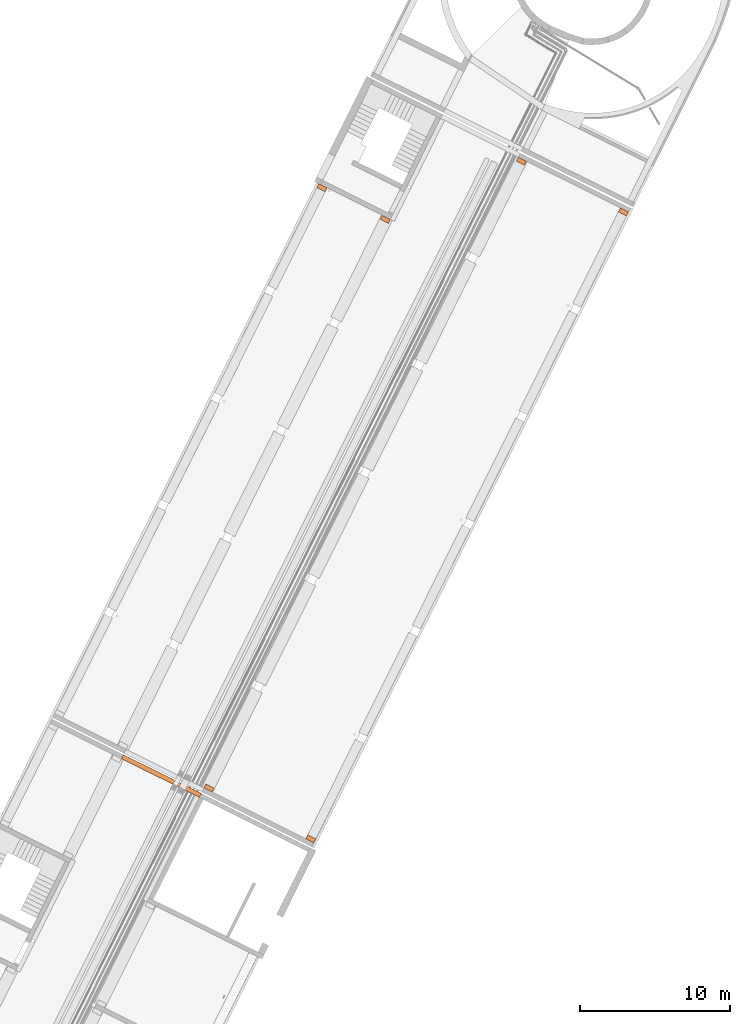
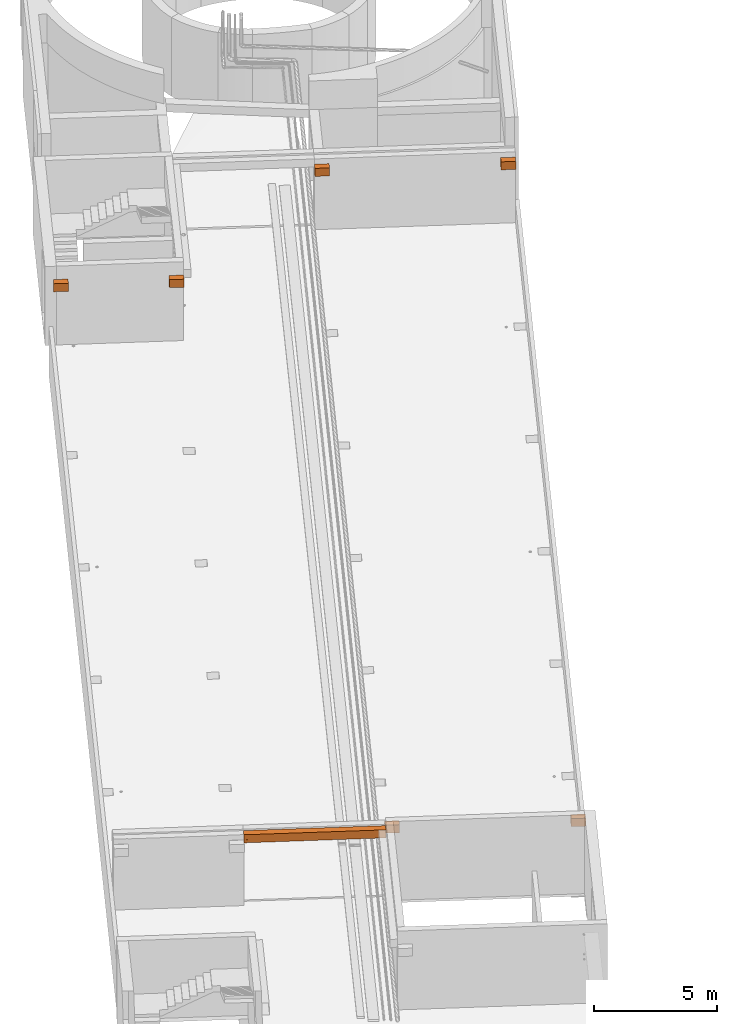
# One storey, part 47 of 47: 7 proxies.
"""IFC2X3 building model written with IfcOpenShell, lengths in metres."""

from ifc_helpers import new_model, entity, si_unit, converted_unit, derived_unit, direction, frame, frame_2d, origin, place, context, subcontext, project, spatial, rectangle, extrude, faceted_brep, source, transform, mapped, material, element, save


model = new_model("IFC2X3")

# Units and contexts
model_context = context("Model", 3, precision=1e-05, world=origin(), true_north=direction((0.894925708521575, 0.446215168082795)))
context_of_model = context(None, 3, precision=1e-05, world=origin(), true_north=direction((0.894925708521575, 0.446215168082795)))
body_context = subcontext(model_context, "Body", "Model", "MODEL_VIEW")
ifc_project = project(units=[si_unit("LENGTHUNIT", "METRE"), si_unit("AREAUNIT", "SQUARE_METRE"), si_unit("VOLUMEUNIT", "CUBIC_METRE"), converted_unit("PLANEANGLEUNIT", "DEGREE", entity("IfcRatioMeasure", 0.0174532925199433), si_unit("PLANEANGLEUNIT", "RADIAN"), dimensions=[0, 0, 0, 0, 0, 0, 0]), si_unit("MASSUNIT", "GRAM", prefix="KILO"), si_unit("TIMEUNIT", "SECOND"), si_unit("FREQUENCYUNIT", "HERTZ"), si_unit("THERMODYNAMICTEMPERATUREUNIT", "DEGREE_CELSIUS"), derived_unit("THERMALTRANSMITTANCEUNIT", [(si_unit("MASSUNIT", "GRAM", prefix="KILO"), 1), (si_unit("THERMODYNAMICTEMPERATUREUNIT", "KELVIN"), -1), (si_unit("TIMEUNIT", "SECOND"), -3)]), derived_unit("VOLUMETRICFLOWRATEUNIT", [(si_unit("LENGTHUNIT", "METRE"), 3), (si_unit("TIMEUNIT", "SECOND"), -1)]), si_unit("ELECTRICCURRENTUNIT", "AMPERE"), si_unit("ELECTRICVOLTAGEUNIT", "VOLT"), si_unit("POWERUNIT", "WATT"), si_unit("FORCEUNIT", "NEWTON", prefix="KILO"), si_unit("ILLUMINANCEUNIT", "LUX"), si_unit("LUMINOUSFLUXUNIT", "LUMEN"), si_unit("LUMINOUSINTENSITYUNIT", "CANDELA"), si_unit("PRESSUREUNIT", "PASCAL")], contexts=[model_context, context_of_model])

# Site, building, storey
site_placement = place(None, frame((218.228324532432, 584.720189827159, 0.0), z_axis=(0.0, 0.0, 1.0), x_axis=(0.446215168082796, 0.894925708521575, 0.0)))
site = spatial("IfcSite", under=ifc_project, at=site_placement, Name="Default", CompositionType="ELEMENT")
building_placement = place(site_placement, origin())
building = spatial("IfcBuilding", under=site, at=building_placement, CompositionType="ELEMENT")
storey_placement = place(building_placement, frame((0.0, 0.0, 4.69)))
storey = spatial("IfcBuildingStorey", under=building, at=storey_placement, Name="1 - Piano Primo", CompositionType="ELEMENT", Elevation=4.69)

# Proxies
ifc_material = material(Name="Calcestruzzo, gettato in opera")
shared_shape_1 = source(origin(), body_context, "Body", "SweptSolid", [
    extrude(rectangle(XDim=0.300000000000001, YDim=0.6, at=frame_2d((0.0, 5.27355936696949e-16), x_axis=(1.0, 0.0))), frame((0.150000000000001, 0.300000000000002, 0.0), z_axis=(0.0, 0.0, 1.0), x_axis=(-1.0, 0.0, 0.0)), (0.0, 0.0, 1.0), 0.4),
])
proxy_1_placement = place(storey_placement, frame((50.7059369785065, 5.51892100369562, 2.86)))
element("IfcBuildingElementProxy", 1, at=proxy_1_placement, inside=storey, material=ifc_material, Name="Mensola C.A.34:Mensola C.A.", ObjectType="Mensola C.A.", CompositionType="ELEMENT", context=body_context, shape_type="MappedRepresentation", body=[
    mapped(shared_shape_1, transform((0.0, 0.0, 0.0), scale=1.0)),
])
shared_shape_2 = source(origin(), body_context, "Body", "SweptSolid", [
    extrude(rectangle(XDim=0.300000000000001, YDim=0.6, at=frame_2d((0.0, 5.27355936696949e-16), x_axis=(1.0, 0.0))), frame((0.150000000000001, 0.300000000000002, 0.0), z_axis=(0.0, 0.0, 1.0), x_axis=(-1.0, 0.0, 0.0)), (0.0, 0.0, 1.0), 0.4),
])
proxy_2_placement = place(storey_placement, frame((11.4942149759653, -5.60107899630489, 2.86)))
element("IfcBuildingElementProxy", 2, at=proxy_2_placement, inside=storey, material=ifc_material, Name="Mensola C.A.35:Mensola C.A.", ObjectType="Mensola C.A.", CompositionType="ELEMENT", context=body_context, shape_type="MappedRepresentation", body=[
    mapped(shared_shape_2, transform((0.0, 0.0, 0.0), scale=1.0)),
])
shared_shape_3 = source(origin(), body_context, "Body", "SweptSolid", [
    extrude(rectangle(XDim=0.300000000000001, YDim=0.6, at=frame_2d((0.0, 5.27355936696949e-16), x_axis=(1.0, 0.0))), frame((0.150000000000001, 0.300000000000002, 0.0), z_axis=(0.0, 0.0, 1.0), x_axis=(-1.0, 0.0, 0.0)), (0.0, 0.0, 1.0), 0.4),
])
proxy_3_placement = place(storey_placement, frame((11.4942149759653, -13.2010789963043, 2.86)))
element("IfcBuildingElementProxy", 3, at=proxy_3_placement, inside=storey, material=ifc_material, Name="Mensola C.A.36:Mensola C.A.", ObjectType="Mensola C.A.", CompositionType="ELEMENT", context=body_context, shape_type="MappedRepresentation", body=[
    mapped(shared_shape_3, transform((0.0, 0.0, 0.0), scale=1.0)),
])
shared_shape_4 = source(origin(), body_context, "Body", "SweptSolid", [
    extrude(rectangle(XDim=0.300000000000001, YDim=0.6, at=frame_2d((0.0, 5.27355936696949e-16), x_axis=(1.0, 0.0))), frame((0.150000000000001, 0.300000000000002, 0.0), z_axis=(0.0, 0.0, 1.0), x_axis=(-1.0, 0.0, 0.0)), (0.0, 0.0, 1.0), 0.4),
])
proxy_4_placement = place(storey_placement, frame((58.2359369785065, -5.60107899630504, 2.86)))
element("IfcBuildingElementProxy", 4, at=proxy_4_placement, inside=storey, material=ifc_material, Name="Mensola C.A.37:Mensola C.A.", ObjectType="Mensola C.A.", CompositionType="ELEMENT", context=body_context, shape_type="MappedRepresentation", body=[
    mapped(shared_shape_4, transform((0.0, 0.0, 0.0), scale=1.0)),
])
shared_shape_5 = source(origin(), body_context, "Body", "SweptSolid", [
    extrude(rectangle(XDim=0.300000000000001, YDim=0.6, at=frame_2d((0.0, 5.27355936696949e-16), x_axis=(1.0, 0.0))), frame((0.150000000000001, 0.300000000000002, 0.0), z_axis=(0.0, 0.0, 1.0), x_axis=(-1.0, 0.0, 0.0)), (0.0, 0.0, 1.0), 0.4),
])
proxy_5_placement = place(storey_placement, frame((58.2359369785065, -13.2010789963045, 2.86)))
element("IfcBuildingElementProxy", 5, at=proxy_5_placement, inside=storey, material=ifc_material, Name="Mensola C.A.38:Mensola C.A.", ObjectType="Mensola C.A.", CompositionType="ELEMENT", context=body_context, shape_type="MappedRepresentation", body=[
    mapped(shared_shape_5, transform((0.0, 0.0, 0.0), scale=1.0)),
])
shared_shape_6 = source(origin(), body_context, "Body", "SweptSolid", [
    extrude(rectangle(XDim=0.300000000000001, YDim=0.6, at=frame_2d((0.0, 5.27355936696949e-16), x_axis=(1.0, 0.0))), frame((0.150000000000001, 0.300000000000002, 0.0), z_axis=(0.0, 0.0, 1.0), x_axis=(-1.0, 0.0, 0.0)), (0.0, 0.0, 1.0), 0.4),
])
proxy_6_placement = place(storey_placement, frame((50.7059369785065, 0.798921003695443, 2.86)))
element("IfcBuildingElementProxy", 6, at=proxy_6_placement, inside=storey, material=ifc_material, Name="Mensola C.A.39:Mensola C.A.", ObjectType="Mensola C.A.", CompositionType="ELEMENT", context=body_context, shape_type="MappedRepresentation", body=[
    mapped(shared_shape_6, transform((0.0, 0.0, 0.0), scale=1.0)),
])
shared_shape_7 = source(origin(), body_context, "Body", "Brep", [
    faceted_brep([(0.0, 0.0, 0.4), (0.300000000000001, 0.0, 0.4), (0.300000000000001, 5.80000000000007, 0.4), (0.0142745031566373, 5.80000000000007, 0.4), (0.0142745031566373, 5.6500000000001, 0.4), (0.0, 5.6500000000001, 0.4), (0.0, 0.0, 0.0), (0.0, 5.80000000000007, 0.0), (0.300000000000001, 5.80000000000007, 0.0), (0.300000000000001, 0.0, 0.0), (0.0, 5.80000000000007, 0.139999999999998), (0.0142745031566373, 5.80000000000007, 0.139999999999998), (0.0, 5.6500000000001, 0.139999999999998), (0.0142745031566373, 5.6500000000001, 0.139999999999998)], [[[0, 1, 2, 3, 4, 5]], [[6, 7, 8, 9]], [[1, 0, 6, 9]], [[2, 1, 9, 8]], [[8, 7, 10, 11, 3, 2]], [[7, 6, 0, 5, 12, 10]], [[13, 4, 3, 11]], [[4, 13, 12, 5]], [[13, 11, 10, 12]]]),
])
proxy_7_placement = place(storey_placement, frame((10.7942149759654, -5.00107899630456, 3.12)))
element("IfcBuildingElementProxy", 7, at=proxy_7_placement, inside=storey, material=ifc_material, Name="Trave setto12:Trave setto", ObjectType="Trave setto", CompositionType="ELEMENT", context=body_context, shape_type="MappedRepresentation", body=[
    mapped(shared_shape_7, transform((0.0, 0.0, 0.0), scale=1.0)),
])

save(model, "model.ifc")
